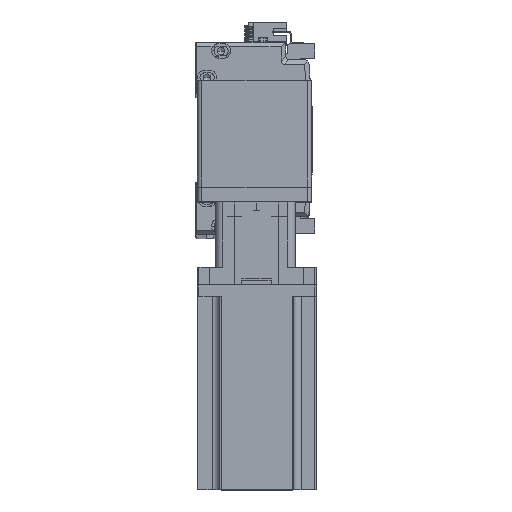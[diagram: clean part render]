
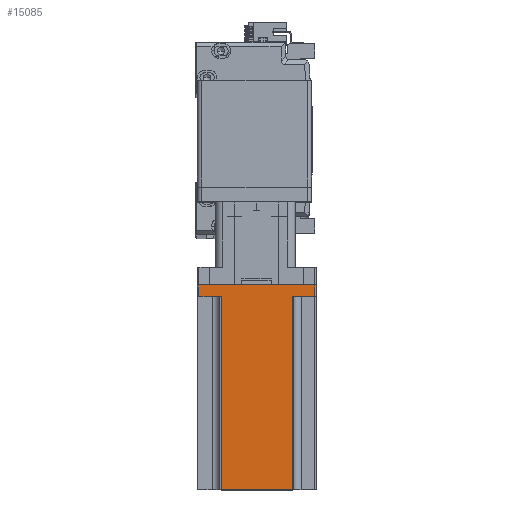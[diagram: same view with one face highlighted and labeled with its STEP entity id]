
A CAD part, top view. The second image highlights one B-rep face of the part: STEP entity #15085.
In plain terms, the highlighted planar face has unit normal (0, 0, 1) as drawn and (0, 1, 0) by its records, which use the part's own axes.
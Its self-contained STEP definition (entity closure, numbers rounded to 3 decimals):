
#271 = ORIENTED_EDGE ( 'NONE', *, *, #19746, .T. ) ;
#729 = CARTESIAN_POINT ( 'NONE',  ( -25., 40., 8. ) ) ;
#891 = VECTOR ( 'NONE', #55376, 1000. ) ;
#1765 = VERTEX_POINT ( 'NONE', #9958 ) ;
#2181 = CARTESIAN_POINT ( 'NONE',  ( -39., 40., 8. ) ) ;
#3997 = DIRECTION ( 'NONE',  ( 1., 0., 0. ) ) ;
#4250 = VECTOR ( 'NONE', #27051, 1000. ) ;
#4372 = ORIENTED_EDGE ( 'NONE', *, *, #20039, .T. ) ;
#5430 = VERTEX_POINT ( 'NONE', #42808 ) ;
#5591 = VERTEX_POINT ( 'NONE', #44287 ) ;
#5748 = DIRECTION ( 'NONE',  ( 0., 0., 1. ) ) ;
#5828 = CARTESIAN_POINT ( 'NONE',  ( 39., 40., 138.3 ) ) ;
#6106 = EDGE_CURVE ( 'NONE', #29272, #5591, #49647, .T. ) ;
#8191 = VECTOR ( 'NONE', #16746, 1000. ) ;
#8786 = EDGE_LOOP ( 'NONE', ( #38252, #42830, #37295, #271, #33591, #26659, #4372, #43584 ) ) ;
#9872 = EDGE_CURVE ( 'NONE', #43029, #50964, #22786, .T. ) ;
#9958 = CARTESIAN_POINT ( 'NONE',  ( 39., 40., 8. ) ) ;
#10553 = VECTOR ( 'NONE', #30604, 1000. ) ;
#11918 = LINE ( 'NONE', #729, #10553 ) ;
#15085 = ADVANCED_FACE ( 'NONE', ( #39734 ), #37959, .F. ) ;
#16746 = DIRECTION ( 'NONE',  ( 0., 0., -1. ) ) ;
#18354 = EDGE_CURVE ( 'NONE', #25609, #5591, #36540, .T. ) ;
#19303 = CARTESIAN_POINT ( 'NONE',  ( 40., 40., 0. ) ) ;
#19590 = LINE ( 'NONE', #46606, #8191 ) ;
#19746 = EDGE_CURVE ( 'NONE', #29272, #36835, #19590, .T. ) ;
#20039 = EDGE_CURVE ( 'NONE', #5430, #43029, #37679, .T. ) ;
#22786 = LINE ( 'NONE', #39933, #45499 ) ;
#23622 = LINE ( 'NONE', #25578, #891 ) ;
#25578 = CARTESIAN_POINT ( 'NONE',  ( 25., 40., 8. ) ) ;
#25609 = VERTEX_POINT ( 'NONE', #29033 ) ;
#26659 = ORIENTED_EDGE ( 'NONE', *, *, #54970, .T. ) ;
#27051 = DIRECTION ( 'NONE',  ( -1., 0., 0. ) ) ;
#27660 = VECTOR ( 'NONE', #44706, 1000. ) ;
#27969 = CARTESIAN_POINT ( 'NONE',  ( -39., 40., 0. ) ) ;
#29033 = CARTESIAN_POINT ( 'NONE',  ( -24., 40., 8. ) ) ;
#29272 = VERTEX_POINT ( 'NONE', #38907 ) ;
#29551 = DIRECTION ( 'NONE',  ( 0., -1., 0. ) ) ;
#30604 = DIRECTION ( 'NONE',  ( 1., 0., 0. ) ) ;
#31423 = DIRECTION ( 'NONE',  ( 0., 0., -1. ) ) ;
#33591 = ORIENTED_EDGE ( 'NONE', *, *, #42741, .F. ) ;
#36421 = AXIS2_PLACEMENT_3D ( 'NONE', #55069, #29551, #3997 ) ;
#36540 = LINE ( 'NONE', #36884, #50544 ) ;
#36835 = VERTEX_POINT ( 'NONE', #48617 ) ;
#36884 = CARTESIAN_POINT ( 'NONE',  ( -24., 40., 138.3 ) ) ;
#37074 = DIRECTION ( 'NONE',  ( 0., 0., 1. ) ) ;
#37295 = ORIENTED_EDGE ( 'NONE', *, *, #6106, .F. ) ;
#37679 = LINE ( 'NONE', #19303, #27660 ) ;
#37959 = PLANE ( 'NONE',  #36421 ) ;
#38252 = ORIENTED_EDGE ( 'NONE', *, *, #39785, .T. ) ;
#38907 = CARTESIAN_POINT ( 'NONE',  ( 24., 40., 138.3 ) ) ;
#39734 = FACE_OUTER_BOUND ( 'NONE', #8786, .T. ) ;
#39785 = EDGE_CURVE ( 'NONE', #50964, #25609, #11918, .T. ) ;
#39933 = CARTESIAN_POINT ( 'NONE',  ( -39., 40., 138.3 ) ) ;
#42368 = VECTOR ( 'NONE', #31423, 1000. ) ;
#42741 = EDGE_CURVE ( 'NONE', #1765, #36835, #23622, .T. ) ;
#42808 = CARTESIAN_POINT ( 'NONE',  ( 39., 40., 0. ) ) ;
#42830 = ORIENTED_EDGE ( 'NONE', *, *, #18354, .T. ) ;
#43029 = VERTEX_POINT ( 'NONE', #27969 ) ;
#43584 = ORIENTED_EDGE ( 'NONE', *, *, #9872, .T. ) ;
#44287 = CARTESIAN_POINT ( 'NONE',  ( -24., 40., 138.3 ) ) ;
#44706 = DIRECTION ( 'NONE',  ( -1., 0., 0. ) ) ;
#45499 = VECTOR ( 'NONE', #5748, 1000. ) ;
#46606 = CARTESIAN_POINT ( 'NONE',  ( 24., 40., 138.3 ) ) ;
#48617 = CARTESIAN_POINT ( 'NONE',  ( 24., 40., 8. ) ) ;
#49647 = LINE ( 'NONE', #52581, #4250 ) ;
#49714 = LINE ( 'NONE', #5828, #42368 ) ;
#50544 = VECTOR ( 'NONE', #37074, 1000. ) ;
#50964 = VERTEX_POINT ( 'NONE', #2181 ) ;
#52581 = CARTESIAN_POINT ( 'NONE',  ( 40., 40., 138.3 ) ) ;
#54970 = EDGE_CURVE ( 'NONE', #1765, #5430, #49714, .T. ) ;
#55069 = CARTESIAN_POINT ( 'NONE',  ( 40., 40., 138.3 ) ) ;
#55376 = DIRECTION ( 'NONE',  ( -1., 0., 0. ) ) ;
